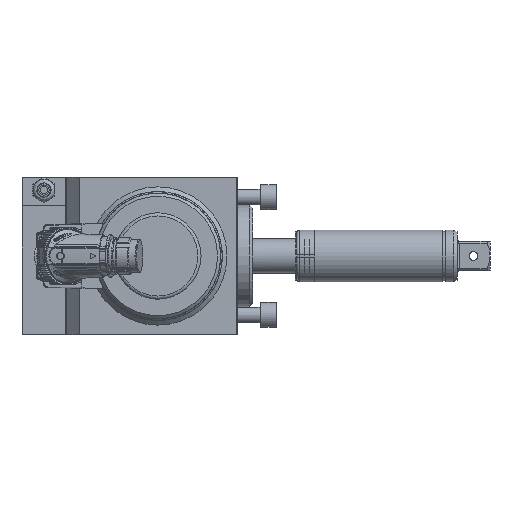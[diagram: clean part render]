
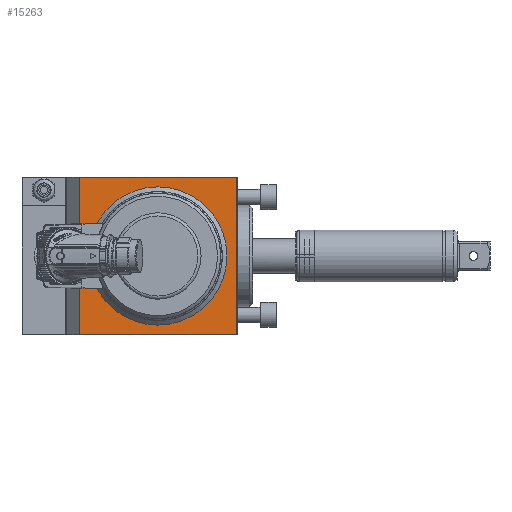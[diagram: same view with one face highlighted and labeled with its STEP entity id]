
A CAD part, left-side view. The second image highlights one B-rep face of the part: STEP entity #15263.
In plain terms, the highlighted planar face has unit normal (-1, 0, 0).
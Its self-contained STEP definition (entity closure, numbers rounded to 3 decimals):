
#130 = DIRECTION ( 'NONE',  ( 0., 0., 1. ) ) ;
#989 = PLANE ( 'NONE',  #36991 ) ;
#1241 = ORIENTED_EDGE ( 'NONE', *, *, #66461, .F. ) ;
#1462 = CARTESIAN_POINT ( 'NONE',  ( -84., 50.5, 0. ) ) ;
#2991 = EDGE_CURVE ( 'NONE', #35541, #61832, #78137, .T. ) ;
#3635 = CARTESIAN_POINT ( 'NONE',  ( -84., 0.5, 50. ) ) ;
#4153 = CARTESIAN_POINT ( 'NONE',  ( -84., 100.5, -50. ) ) ;
#5071 = DIRECTION ( 'NONE',  ( 0., 0., 1. ) ) ;
#7196 = CARTESIAN_POINT ( 'NONE',  ( -84., 0.5, 50. ) ) ;
#7859 = ORIENTED_EDGE ( 'NONE', *, *, #2991, .F. ) ;
#9046 = DIRECTION ( 'NONE',  ( 0., 0., -1. ) ) ;
#11630 = CARTESIAN_POINT ( 'NONE',  ( -84., 0.5, 50. ) ) ;
#12057 = CARTESIAN_POINT ( 'NONE',  ( -84., 50.5, 0. ) ) ;
#14510 = FACE_BOUND ( 'NONE', #59288, .T. ) ;
#14590 = CARTESIAN_POINT ( 'NONE',  ( -84., 100.5, 50. ) ) ;
#15263 = ADVANCED_FACE ( 'NONE', ( #86288, #14510 ), #989, .T. ) ;
#20758 = VERTEX_POINT ( 'NONE', #49192 ) ;
#28291 = DIRECTION ( 'NONE',  ( 0., 1., 0. ) ) ;
#33560 = LINE ( 'NONE', #11630, #89570 ) ;
#34028 = DIRECTION ( 'NONE',  ( 0., -1., 0. ) ) ;
#34546 = EDGE_CURVE ( 'NONE', #36307, #35541, #64967, .T. ) ;
#35541 = VERTEX_POINT ( 'NONE', #72382 ) ;
#36307 = VERTEX_POINT ( 'NONE', #3635 ) ;
#36431 = DIRECTION ( 'NONE',  ( 0., 0., 1. ) ) ;
#36991 = AXIS2_PLACEMENT_3D ( 'NONE', #1462, #70895, #36431 ) ;
#37916 = CARTESIAN_POINT ( 'NONE',  ( -84., 100.5, 50. ) ) ;
#40387 = VECTOR ( 'NONE', #130, 1000. ) ;
#45555 = CIRCLE ( 'NONE', #63320, 44. ) ;
#49192 = CARTESIAN_POINT ( 'NONE',  ( -84., 50.5, 44. ) ) ;
#53620 = VECTOR ( 'NONE', #9046, 1000. ) ;
#58597 = EDGE_CURVE ( 'NONE', #59151, #36307, #33560, .T. ) ;
#59151 = VERTEX_POINT ( 'NONE', #37916 ) ;
#59288 = EDGE_LOOP ( 'NONE', ( #87954 ) ) ;
#61471 = DIRECTION ( 'NONE',  ( 1., 0., 0. ) ) ;
#61832 = VERTEX_POINT ( 'NONE', #4153 ) ;
#63320 = AXIS2_PLACEMENT_3D ( 'NONE', #12057, #61471, #5071 ) ;
#64435 = LINE ( 'NONE', #14590, #40387 ) ;
#64523 = ORIENTED_EDGE ( 'NONE', *, *, #58597, .F. ) ;
#64967 = LINE ( 'NONE', #7196, #53620 ) ;
#66461 = EDGE_CURVE ( 'NONE', #61832, #59151, #64435, .T. ) ;
#67181 = VECTOR ( 'NONE', #28291, 1000. ) ;
#70895 = DIRECTION ( 'NONE',  ( -1., 0., 0. ) ) ;
#72382 = CARTESIAN_POINT ( 'NONE',  ( -84., 0.5, -50. ) ) ;
#73952 = ORIENTED_EDGE ( 'NONE', *, *, #34546, .F. ) ;
#78137 = LINE ( 'NONE', #83744, #67181 ) ;
#81655 = EDGE_LOOP ( 'NONE', ( #73952, #64523, #1241, #7859 ) ) ;
#83744 = CARTESIAN_POINT ( 'NONE',  ( -84., 0.5, -50. ) ) ;
#86288 = FACE_OUTER_BOUND ( 'NONE', #81655, .T. ) ;
#87042 = EDGE_CURVE ( 'NONE', #20758, #20758, #45555, .T. ) ;
#87954 = ORIENTED_EDGE ( 'NONE', *, *, #87042, .T. ) ;
#89570 = VECTOR ( 'NONE', #34028, 1000. ) ;
